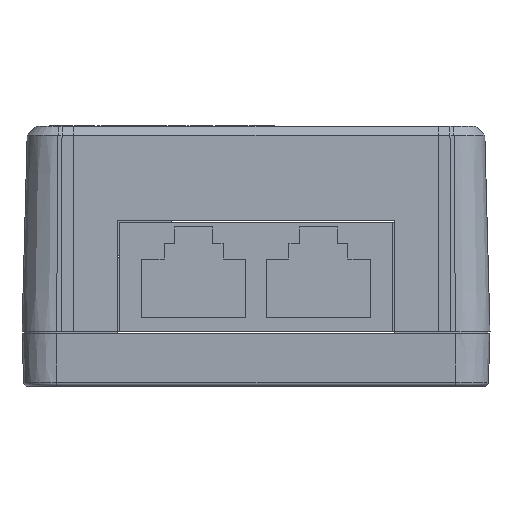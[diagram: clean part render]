
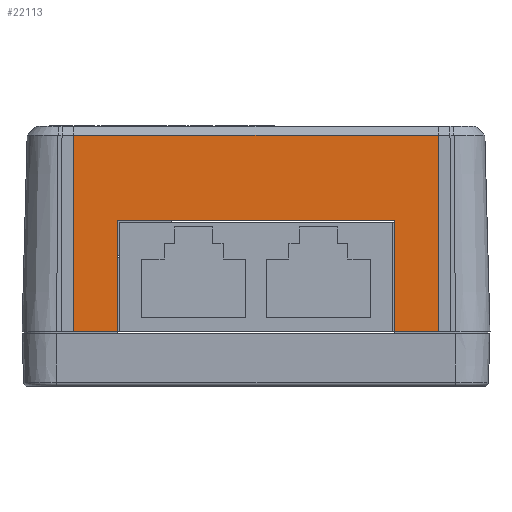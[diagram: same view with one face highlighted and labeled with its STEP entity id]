
A CAD part, left-side view. The second image highlights one B-rep face of the part: STEP entity #22113.
In plain terms, the highlighted planar face has unit normal (-1, 0, 0).
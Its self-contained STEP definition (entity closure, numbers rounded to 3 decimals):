
#448 = CARTESIAN_POINT ( 'NONE',  ( -57.5, -21., 6.3 ) ) ;
#733 = LINE ( 'NONE', #3870, #26231 ) ;
#960 = ORIENTED_EDGE ( 'NONE', *, *, #39459, .T. ) ;
#2553 = CARTESIAN_POINT ( 'NONE',  ( -57.5, -16., 6.3 ) ) ;
#3870 = CARTESIAN_POINT ( 'NONE',  ( -57.5, 16., 19.1 ) ) ;
#5370 = ORIENTED_EDGE ( 'NONE', *, *, #40824, .T. ) ;
#5579 = CARTESIAN_POINT ( 'NONE',  ( -57.5, 16., 6.3 ) ) ;
#5879 = EDGE_CURVE ( 'NONE', #11076, #27905, #6319, .T. ) ;
#6319 = LINE ( 'NONE', #30243, #16344 ) ;
#7337 = VERTEX_POINT ( 'NONE', #12282 ) ;
#8879 = EDGE_CURVE ( 'NONE', #7337, #21794, #23484, .T. ) ;
#9432 = EDGE_CURVE ( 'NONE', #27905, #21978, #33186, .T. ) ;
#10776 = VERTEX_POINT ( 'NONE', #14216 ) ;
#11076 = VERTEX_POINT ( 'NONE', #23335 ) ;
#11399 = CARTESIAN_POINT ( 'NONE',  ( -57.5, 21., 28.973 ) ) ;
#11938 = EDGE_CURVE ( 'NONE', #20527, #21794, #19010, .T. ) ;
#12077 = DIRECTION ( 'NONE',  ( 0., 1., 0. ) ) ;
#12282 = CARTESIAN_POINT ( 'NONE',  ( -57.5, 21., 28.973 ) ) ;
#12593 = CARTESIAN_POINT ( 'NONE',  ( -57.5, 0., 0. ) ) ;
#14077 = ORIENTED_EDGE ( 'NONE', *, *, #5879, .T. ) ;
#14216 = CARTESIAN_POINT ( 'NONE',  ( -57.5, -21., 28.973 ) ) ;
#14525 = ORIENTED_EDGE ( 'NONE', *, *, #11938, .F. ) ;
#14630 = VECTOR ( 'NONE', #32611, 1000. ) ;
#16339 = VECTOR ( 'NONE', #31348, 1000. ) ;
#16344 = VECTOR ( 'NONE', #19960, 1000. ) ;
#17661 = DIRECTION ( 'NONE',  ( 0., 0., 1. ) ) ;
#19010 = LINE ( 'NONE', #5579, #41491 ) ;
#19960 = DIRECTION ( 'NONE',  ( 0., 0., -1. ) ) ;
#20527 = VERTEX_POINT ( 'NONE', #26762 ) ;
#21794 = VERTEX_POINT ( 'NONE', #31621 ) ;
#21978 = VERTEX_POINT ( 'NONE', #38554 ) ;
#22113 = ADVANCED_FACE ( 'NONE', ( #32935 ), #29587, .T. ) ;
#22670 = DIRECTION ( 'NONE',  ( 0., -1., 0. ) ) ;
#23335 = CARTESIAN_POINT ( 'NONE',  ( -57.5, -16., 19.1 ) ) ;
#23387 = ORIENTED_EDGE ( 'NONE', *, *, #8879, .T. ) ;
#23484 = LINE ( 'NONE', #37583, #42991 ) ;
#24200 = CARTESIAN_POINT ( 'NONE',  ( -57.5, 16., 6.3 ) ) ;
#24592 = LINE ( 'NONE', #448, #44139 ) ;
#25246 = LINE ( 'NONE', #11399, #14630 ) ;
#25937 = EDGE_CURVE ( 'NONE', #7337, #10776, #25246, .T. ) ;
#26214 = DIRECTION ( 'NONE',  ( 0., 0., 1. ) ) ;
#26231 = VECTOR ( 'NONE', #31587, 1000. ) ;
#26762 = CARTESIAN_POINT ( 'NONE',  ( -57.5, 16., 6.3 ) ) ;
#27120 = LINE ( 'NONE', #24200, #16339 ) ;
#27164 = VECTOR ( 'NONE', #22670, 1000. ) ;
#27728 = DIRECTION ( 'NONE',  ( 0., 0., -1. ) ) ;
#27905 = VERTEX_POINT ( 'NONE', #40944 ) ;
#29587 = PLANE ( 'NONE',  #38723 ) ;
#30243 = CARTESIAN_POINT ( 'NONE',  ( -57.5, -16., 19.1 ) ) ;
#31348 = DIRECTION ( 'NONE',  ( 0., 0., 1. ) ) ;
#31587 = DIRECTION ( 'NONE',  ( 0., -1., 0. ) ) ;
#31621 = CARTESIAN_POINT ( 'NONE',  ( -57.5, 21., 6.3 ) ) ;
#32210 = ORIENTED_EDGE ( 'NONE', *, *, #9432, .T. ) ;
#32471 = CARTESIAN_POINT ( 'NONE',  ( -57.5, 16., 19.1 ) ) ;
#32611 = DIRECTION ( 'NONE',  ( 0., -1., 0. ) ) ;
#32935 = FACE_OUTER_BOUND ( 'NONE', #42474, .T. ) ;
#33186 = LINE ( 'NONE', #2553, #27164 ) ;
#36278 = DIRECTION ( 'NONE',  ( -1., 0., 0. ) ) ;
#37583 = CARTESIAN_POINT ( 'NONE',  ( -57.5, 21., 28.973 ) ) ;
#38554 = CARTESIAN_POINT ( 'NONE',  ( -57.5, -21., 6.3 ) ) ;
#38723 = AXIS2_PLACEMENT_3D ( 'NONE', #12593, #36278, #26214 ) ;
#38816 = ORIENTED_EDGE ( 'NONE', *, *, #39042, .T. ) ;
#39042 = EDGE_CURVE ( 'NONE', #42933, #11076, #733, .T. ) ;
#39459 = EDGE_CURVE ( 'NONE', #21978, #10776, #24592, .T. ) ;
#40824 = EDGE_CURVE ( 'NONE', #20527, #42933, #27120, .T. ) ;
#40944 = CARTESIAN_POINT ( 'NONE',  ( -57.5, -16., 6.3 ) ) ;
#41491 = VECTOR ( 'NONE', #12077, 1000. ) ;
#41621 = ORIENTED_EDGE ( 'NONE', *, *, #25937, .F. ) ;
#42474 = EDGE_LOOP ( 'NONE', ( #23387, #14525, #5370, #38816, #14077, #32210, #960, #41621 ) ) ;
#42933 = VERTEX_POINT ( 'NONE', #32471 ) ;
#42991 = VECTOR ( 'NONE', #27728, 1000. ) ;
#44139 = VECTOR ( 'NONE', #17661, 1000. ) ;
